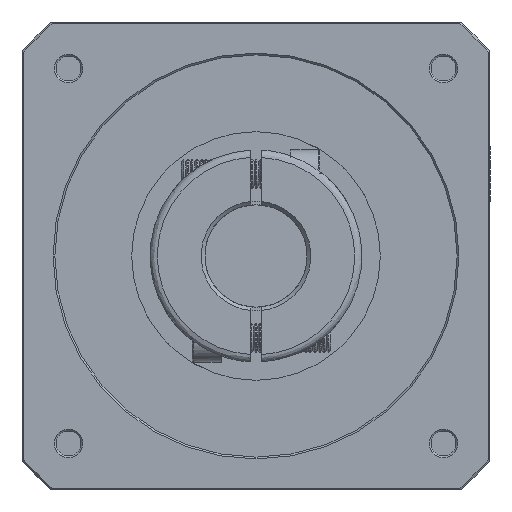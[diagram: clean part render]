
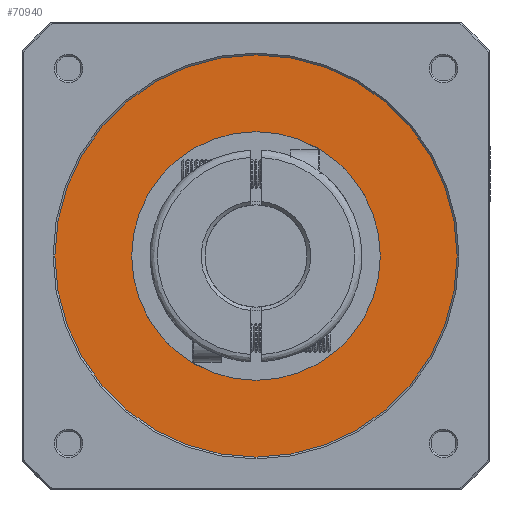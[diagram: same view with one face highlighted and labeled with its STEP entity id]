
A CAD part, front view. The second image highlights one B-rep face of the part: STEP entity #70940.
In plain terms, the highlighted planar face has unit normal (0, 1, 0).
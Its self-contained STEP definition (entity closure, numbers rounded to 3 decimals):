
#3238 = CIRCLE ( 'NONE', #58690, 34. ) ;
#3344 = CIRCLE ( 'NONE', #27775, 34. ) ;
#4684 = CARTESIAN_POINT ( 'NONE',  ( 0., -178.111, -34. ) ) ;
#5838 = VERTEX_POINT ( 'NONE', #4684 ) ;
#5851 = DIRECTION ( 'NONE',  ( 0., -1., 0. ) ) ;
#7800 = VERTEX_POINT ( 'NONE', #50065 ) ;
#12788 = CARTESIAN_POINT ( 'NONE',  ( 0., -178.111, 34. ) ) ;
#13382 = ORIENTED_EDGE ( 'NONE', *, *, #56598, .T. ) ;
#18446 = CARTESIAN_POINT ( 'NONE',  ( -55.66, -178.111, -55.66 ) ) ;
#25331 = DIRECTION ( 'NONE',  ( 1., 0., 0. ) ) ;
#25644 = CARTESIAN_POINT ( 'NONE',  ( 0., -178.111, 0. ) ) ;
#27775 = AXIS2_PLACEMENT_3D ( 'NONE', #25644, #73749, #32631 ) ;
#28708 = AXIS2_PLACEMENT_3D ( 'NONE', #18446, #66601, #25331 ) ;
#29321 = CARTESIAN_POINT ( 'NONE',  ( 0., -178.111, 0. ) ) ;
#32631 = DIRECTION ( 'NONE',  ( 0., 0., 1. ) ) ;
#36286 = DIRECTION ( 'NONE',  ( 0., 0., -1. ) ) ;
#36371 = AXIS2_PLACEMENT_3D ( 'NONE', #36797, #84799, #43716 ) ;
#36797 = CARTESIAN_POINT ( 'NONE',  ( 0., -178.111, 0. ) ) ;
#40324 = FACE_OUTER_BOUND ( 'NONE', #79159, .T. ) ;
#43716 = DIRECTION ( 'NONE',  ( 0., 0., -1. ) ) ;
#44520 = EDGE_CURVE ( 'NONE', #46769, #7800, #45059, .T. ) ;
#44957 = CARTESIAN_POINT ( 'NONE',  ( 0., -178.111, -55. ) ) ;
#45059 = CIRCLE ( 'NONE', #71781, 55. ) ;
#46769 = VERTEX_POINT ( 'NONE', #44957 ) ;
#47212 = CARTESIAN_POINT ( 'NONE',  ( 0., -178.111, 0. ) ) ;
#50065 = CARTESIAN_POINT ( 'NONE',  ( 0., -178.111, 55. ) ) ;
#54094 = DIRECTION ( 'NONE',  ( 0., 0., 1. ) ) ;
#56598 = EDGE_CURVE ( 'NONE', #5838, #85429, #3238, .T. ) ;
#58690 = AXIS2_PLACEMENT_3D ( 'NONE', #47212, #5851, #54094 ) ;
#61428 = ORIENTED_EDGE ( 'NONE', *, *, #74835, .T. ) ;
#66601 = DIRECTION ( 'NONE',  ( 0., -1., 0. ) ) ;
#68719 = EDGE_LOOP ( 'NONE', ( #61428, #13382 ) ) ;
#70940 = ADVANCED_FACE ( 'NONE', ( #74678, #40324 ), #80082, .F. ) ;
#71781 = AXIS2_PLACEMENT_3D ( 'NONE', #29321, #77400, #36286 ) ;
#73749 = DIRECTION ( 'NONE',  ( 0., -1., 0. ) ) ;
#74678 = FACE_BOUND ( 'NONE', #68719, .T. ) ;
#74835 = EDGE_CURVE ( 'NONE', #85429, #5838, #3344, .T. ) ;
#75701 = ORIENTED_EDGE ( 'NONE', *, *, #83656, .T. ) ;
#77400 = DIRECTION ( 'NONE',  ( 0., 1., 0. ) ) ;
#79159 = EDGE_LOOP ( 'NONE', ( #85814, #75701 ) ) ;
#80082 = PLANE ( 'NONE',  #28708 ) ;
#83656 = EDGE_CURVE ( 'NONE', #7800, #46769, #86388, .T. ) ;
#84799 = DIRECTION ( 'NONE',  ( 0., 1., 0. ) ) ;
#85429 = VERTEX_POINT ( 'NONE', #12788 ) ;
#85814 = ORIENTED_EDGE ( 'NONE', *, *, #44520, .T. ) ;
#86388 = CIRCLE ( 'NONE', #36371, 55. ) ;
